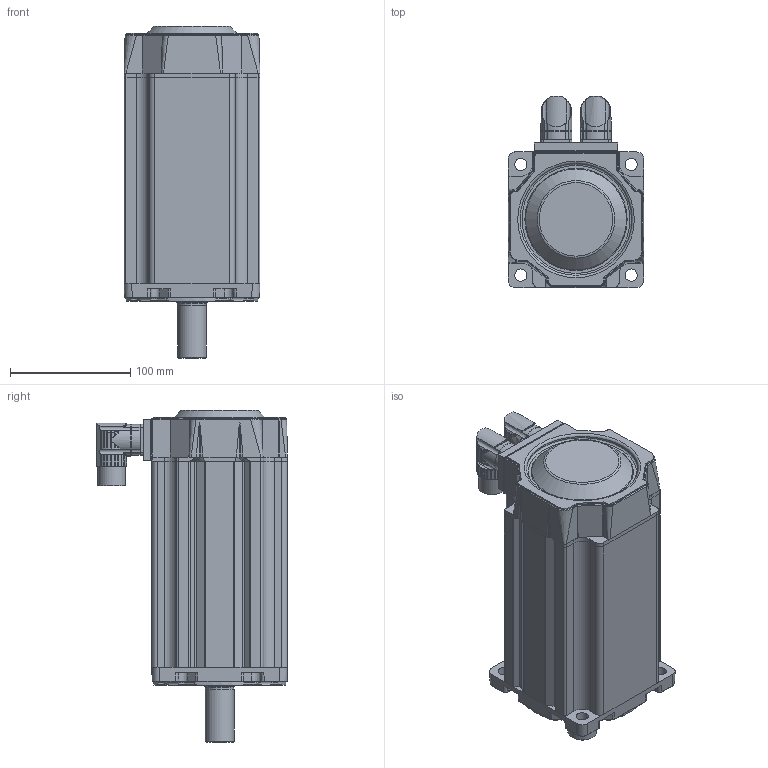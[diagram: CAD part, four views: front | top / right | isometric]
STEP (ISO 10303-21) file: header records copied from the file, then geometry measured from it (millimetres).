
FILE_DESCRIPTION((''),'2;1');
FILE_NAME('C:\CAD_work\Dummy_Modeling_Project_02-12-05\3D MODELS\MPP1153XXX_NPSB.stp','2005-12-20T17:17:29',('jevans'),(''),'Autodesk Inventor 10','Autodesk Inventor 10','');
FILE_SCHEMA(('AUTOMOTIVE_DESIGN { 1 0 10303 214 1 1 1 1 }'));
Length unit declared in the file: inch
Products named in the file (1): MPP115_MOTOR
Bounding box: 113.03 x 159.03 x 276.3 mm (x, y, z)
Volume: 2468559.8 mm3; surface area: 177169.1 mm2
Topology: 2 solids, 2 shells, 1017 faces, 2591 edges, 1624 vertices
Faces by surface type: bspline 355, cylinder 321, plane 240, cone 82, torus 17, sphere 2
Full cylindrical faces by diameter (mm): 1.143 x17, 2.032 x6, 2.794 x2, 19.05 x1, 19.685 x1, 22.86 x1, 23.647 x1, 24.003 x1, 24.994 x2, 31.75 x1, 47.549 x1, 54.61 x1, 61.468 x1, 62.001 x1, 62.027 x1, 62.268 x1, 65.634 x1, 69.85 x1, 71.12 x1, 93.066 x1, 109.995 x1
Entity records: 41660 total; most frequent: CARTESIAN_POINT 19348, ORIENTED_EDGE 4952, DIRECTION 4077, EDGE_CURVE 2476, VERTEX_POINT 1598, AXIS2_PLACEMENT_3D 1592, EDGE_LOOP 1168, FACE_OUTER_BOUND 1017
